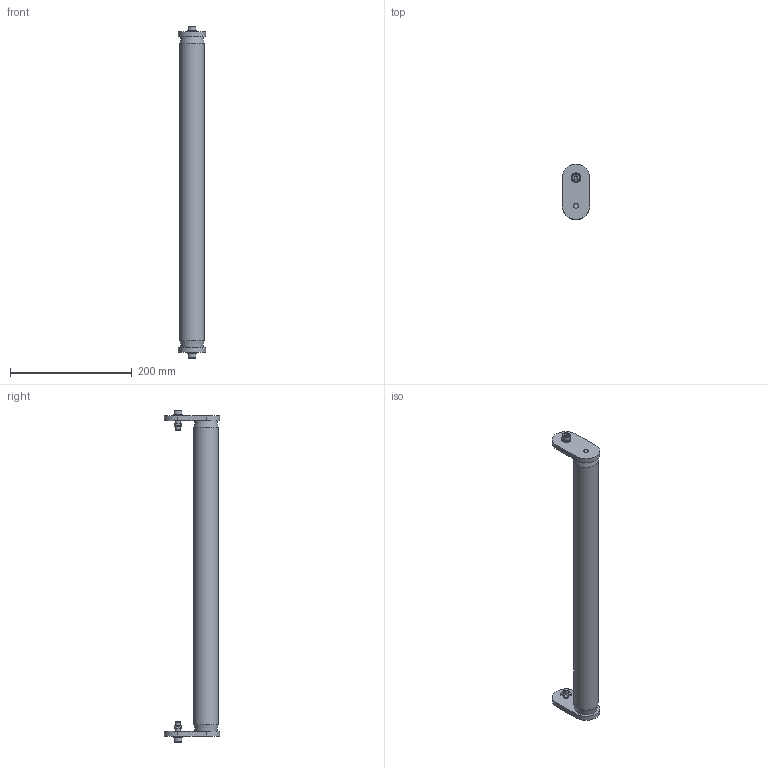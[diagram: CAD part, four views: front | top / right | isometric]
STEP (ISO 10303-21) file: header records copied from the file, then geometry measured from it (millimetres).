
FILE_DESCRIPTION (( 'STEP AP214' ), '1' );
FILE_NAME ('983-004-500.STEP', '2020-11-23T10:26:09', ( '' ), ( '' ), 'SwSTEP 2.0', 'SolidWorks 2020', '' );
FILE_SCHEMA (( 'AUTOMOTIVE_DESIGN' ));
Length unit declared in the file: millimetre
Products named in the file (8): 982-010-500; 910-011; 983-004-500; CHC M8X25 + RP8; CHC THE_910-053H; 983-003; RONDELLE_910-111; 982-009
Assembly tree (8 placements, depth 4):
  983-004-500
    983-003  x2
      982-009
      910-011
      CHC M8X25 + RP8
        CHC THE_910-053H
        RONDELLE_910-111
    982-010-500
Bounding box: 45 x 91 x 545.2 mm (x, y, z)
Volume: 701597.8 mm3; surface area: 89700 mm2
Topology: 9 solids, 9 shells, 119 faces, 261 edges, 166 vertices
Faces by surface type: plane 60, cylinder 33, cone 22, torus 4
Full cylindrical faces by diameter (mm): 6 x2, 6.8 x2, 7.98 x2, 8 x4, 8.4 x2, 8.5 x4, 13 x2, 16 x2, 40 x1
Entity records: 2038 total; most frequent: CARTESIAN_POINT 389, DIRECTION 312, ORIENTED_EDGE 228, AXIS2_PLACEMENT_3D 131, EDGE_CURVE 114, EDGE_LOOP 96, VERTEX_POINT 84, FACE_OUTER_BOUND 78
